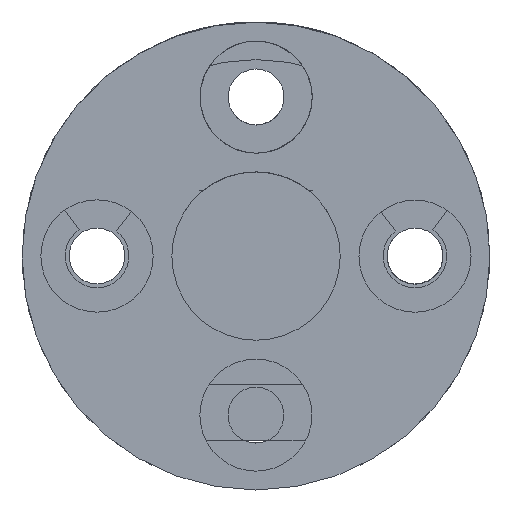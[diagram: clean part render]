
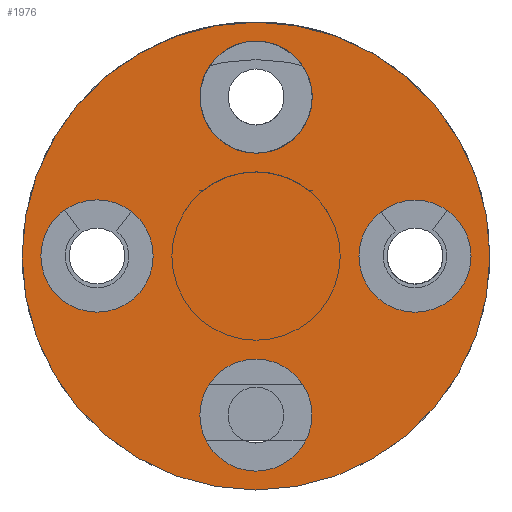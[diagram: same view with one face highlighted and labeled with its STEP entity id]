
A CAD part, front view. The second image highlights one B-rep face of the part: STEP entity #1976.
In plain terms, the highlighted planar face has unit normal (0, -1, 0).
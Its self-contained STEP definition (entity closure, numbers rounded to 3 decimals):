
#206 = EDGE_CURVE ( 'NONE', #672, #685, #6455, .T. ) ;
#262 = EDGE_LOOP ( 'NONE', ( #6334, #6335 ) ) ;
#264 = EDGE_LOOP ( 'NONE', ( #6338, #6339 ) ) ;
#361 = EDGE_LOOP ( 'NONE', ( #6340, #6341 ) ) ;
#586 = DIRECTION ( 'NONE',  ( 0., 0., -1. ) ) ;
#587 = DIRECTION ( 'NONE',  ( 0., -1., 0. ) ) ;
#590 = CARTESIAN_POINT ( 'NONE',  ( 0., 0., 8.499 ) ) ;
#603 = EDGE_CURVE ( 'NONE', #962, #964, #1429, .T. ) ;
#670 = VERTEX_POINT ( 'NONE', #2633 ) ;
#672 = VERTEX_POINT ( 'NONE', #2635 ) ;
#678 = VERTEX_POINT ( 'NONE', #2641 ) ;
#685 = VERTEX_POINT ( 'NONE', #2648 ) ;
#705 = VERTEX_POINT ( 'NONE', #2668 ) ;
#713 = VERTEX_POINT ( 'NONE', #2676 ) ;
#714 = VERTEX_POINT ( 'NONE', #2677 ) ;
#751 = VERTEX_POINT ( 'NONE', #2714 ) ;
#870 = EDGE_LOOP ( 'NONE', ( #6336, #6337 ) ) ;
#962 = VERTEX_POINT ( 'NONE', #2874 ) ;
#964 = VERTEX_POINT ( 'NONE', #2876 ) ;
#1152 = AXIS2_PLACEMENT_3D ( 'NONE', #590, #587, #586 ) ;
#1179 = AXIS2_PLACEMENT_3D ( 'NONE', #1318, #1341, #1323 ) ;
#1293 = EDGE_CURVE ( 'NONE', #964, #962, #6797, .T. ) ;
#1298 = EDGE_CURVE ( 'NONE', #685, #672, #6802, .T. ) ;
#1299 = EDGE_CURVE ( 'NONE', #670, #713, #6803, .T. ) ;
#1300 = EDGE_CURVE ( 'NONE', #751, #678, #6804, .T. ) ;
#1301 = EDGE_CURVE ( 'NONE', #705, #714, #6806, .T. ) ;
#1318 = CARTESIAN_POINT ( 'NONE',  ( 0., 0., 0. ) ) ;
#1323 = DIRECTION ( 'NONE',  ( 0., 0., 1. ) ) ;
#1341 = DIRECTION ( 'NONE',  ( 0., 1., 0. ) ) ;
#1429 = CIRCLE ( 'NONE', #1179, 12.505 ) ;
#1604 = AXIS2_PLACEMENT_3D ( 'NONE', #2210, #2212, #2213 ) ;
#1615 = AXIS2_PLACEMENT_3D ( 'NONE', #2226, #2227, #2228 ) ;
#1616 = AXIS2_PLACEMENT_3D ( 'NONE', #2229, #2230, #2231 ) ;
#1617 = AXIS2_PLACEMENT_3D ( 'NONE', #2232, #2233, #2234 ) ;
#1618 = AXIS2_PLACEMENT_3D ( 'NONE', #2235, #2236, #2237 ) ;
#1633 = AXIS2_PLACEMENT_3D ( 'NONE', #2332, #2339, #2340 ) ;
#1739 = EDGE_CURVE ( 'NONE', #713, #670, #6853, .T. ) ;
#1976 = ADVANCED_FACE ( 'NONE', ( #3834, #3843, #3845, #3847, #3832 ), #4049, .F. ) ;
#2210 = CARTESIAN_POINT ( 'NONE',  ( 0., 0., 0. ) ) ;
#2212 = DIRECTION ( 'NONE',  ( 0., 1., 0. ) ) ;
#2213 = DIRECTION ( 'NONE',  ( 0., 0., 1. ) ) ;
#2226 = CARTESIAN_POINT ( 'NONE',  ( 0., 0., 8.499 ) ) ;
#2227 = DIRECTION ( 'NONE',  ( 0., -1., 0. ) ) ;
#2228 = DIRECTION ( 'NONE',  ( 0., 0., -1. ) ) ;
#2229 = CARTESIAN_POINT ( 'NONE',  ( -8.499, 0., 0. ) ) ;
#2230 = DIRECTION ( 'NONE',  ( 0., -1., 0. ) ) ;
#2231 = DIRECTION ( 'NONE',  ( 0., 0., -1. ) ) ;
#2232 = CARTESIAN_POINT ( 'NONE',  ( 0., 0., -8.499 ) ) ;
#2233 = DIRECTION ( 'NONE',  ( 0., -1., 0. ) ) ;
#2234 = DIRECTION ( 'NONE',  ( 0., 0., -1. ) ) ;
#2235 = CARTESIAN_POINT ( 'NONE',  ( 8.499, 0., 0. ) ) ;
#2236 = DIRECTION ( 'NONE',  ( 0., -1., 0. ) ) ;
#2237 = DIRECTION ( 'NONE',  ( 0., 0., -1. ) ) ;
#2332 = CARTESIAN_POINT ( 'NONE',  ( -8.499, 0., 0. ) ) ;
#2339 = DIRECTION ( 'NONE',  ( 0., -1., 0. ) ) ;
#2340 = DIRECTION ( 'NONE',  ( 0., 0., -1. ) ) ;
#2633 = CARTESIAN_POINT ( 'NONE',  ( -8.499, 0., -3.001 ) ) ;
#2635 = CARTESIAN_POINT ( 'NONE',  ( 0., 0., 11.496 ) ) ;
#2641 = CARTESIAN_POINT ( 'NONE',  ( 0., 0., -5.504 ) ) ;
#2648 = CARTESIAN_POINT ( 'NONE',  ( 0., 0., 5.502 ) ) ;
#2668 = CARTESIAN_POINT ( 'NONE',  ( 8.499, 0., -2.995 ) ) ;
#2676 = CARTESIAN_POINT ( 'NONE',  ( -8.499, 0., 3.001 ) ) ;
#2677 = CARTESIAN_POINT ( 'NONE',  ( 8.499, 0., 2.995 ) ) ;
#2714 = CARTESIAN_POINT ( 'NONE',  ( 0., 0., -11.495 ) ) ;
#2874 = CARTESIAN_POINT ( 'NONE',  ( 0., 0., 12.505 ) ) ;
#2876 = CARTESIAN_POINT ( 'NONE',  ( 0., 0., -12.505 ) ) ;
#3441 = EDGE_LOOP ( 'NONE', ( #6332, #6333 ) ) ;
#3832 = FACE_OUTER_BOUND ( 'NONE', #361, .T. ) ;
#3834 = FACE_BOUND ( 'NONE', #3441, .T. ) ;
#3843 = FACE_BOUND ( 'NONE', #262, .T. ) ;
#3845 = FACE_BOUND ( 'NONE', #870, .T. ) ;
#3847 = FACE_BOUND ( 'NONE', #264, .T. ) ;
#4048 = CARTESIAN_POINT ( 'NONE',  ( 0., 0., 0. ) ) ;
#4049 = PLANE ( 'NONE',  #4554 ) ;
#4060 = DIRECTION ( 'NONE',  ( 0., 1., 0. ) ) ;
#4061 = DIRECTION ( 'NONE',  ( 0., 0., 1. ) ) ;
#4464 = CARTESIAN_POINT ( 'NONE',  ( 0., 0., -8.499 ) ) ;
#4475 = DIRECTION ( 'NONE',  ( 0., -1., 0. ) ) ;
#4476 = DIRECTION ( 'NONE',  ( 0., 0., -1. ) ) ;
#4479 = CARTESIAN_POINT ( 'NONE',  ( 8.499, 0., 0. ) ) ;
#4554 = AXIS2_PLACEMENT_3D ( 'NONE', #4048, #4060, #4061 ) ;
#4640 = AXIS2_PLACEMENT_3D ( 'NONE', #4464, #4475, #4476 ) ;
#4641 = AXIS2_PLACEMENT_3D ( 'NONE', #4479, #5006, #5007 ) ;
#4715 = EDGE_CURVE ( 'NONE', #678, #751, #4944, .T. ) ;
#4721 = EDGE_CURVE ( 'NONE', #714, #705, #4955, .T. ) ;
#4944 = CIRCLE ( 'NONE', #4640, 2.995 ) ;
#4955 = CIRCLE ( 'NONE', #4641, 2.995 ) ;
#5006 = DIRECTION ( 'NONE',  ( 0., -1., 0. ) ) ;
#5007 = DIRECTION ( 'NONE',  ( 0., 0., -1. ) ) ;
#6332 = ORIENTED_EDGE ( 'NONE', *, *, #1300, .F. ) ;
#6333 = ORIENTED_EDGE ( 'NONE', *, *, #4715, .F. ) ;
#6334 = ORIENTED_EDGE ( 'NONE', *, *, #1301, .F. ) ;
#6335 = ORIENTED_EDGE ( 'NONE', *, *, #4721, .F. ) ;
#6336 = ORIENTED_EDGE ( 'NONE', *, *, #1299, .F. ) ;
#6337 = ORIENTED_EDGE ( 'NONE', *, *, #1739, .F. ) ;
#6338 = ORIENTED_EDGE ( 'NONE', *, *, #1298, .F. ) ;
#6339 = ORIENTED_EDGE ( 'NONE', *, *, #206, .F. ) ;
#6340 = ORIENTED_EDGE ( 'NONE', *, *, #1293, .F. ) ;
#6341 = ORIENTED_EDGE ( 'NONE', *, *, #603, .F. ) ;
#6455 = CIRCLE ( 'NONE', #1152, 2.997 ) ;
#6797 = CIRCLE ( 'NONE', #1604, 12.505 ) ;
#6802 = CIRCLE ( 'NONE', #1615, 2.997 ) ;
#6803 = CIRCLE ( 'NONE', #1616, 3.001 ) ;
#6804 = CIRCLE ( 'NONE', #1617, 2.995 ) ;
#6806 = CIRCLE ( 'NONE', #1618, 2.995 ) ;
#6853 = CIRCLE ( 'NONE', #1633, 3.001 ) ;
